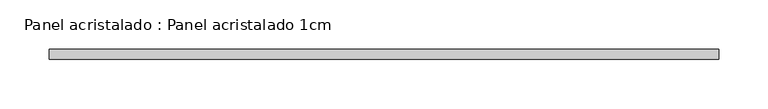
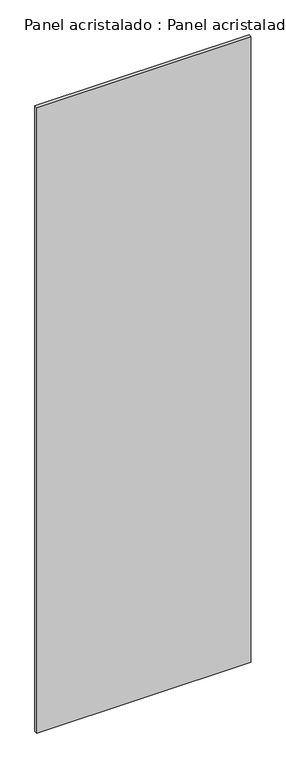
"""IFC4 building model written with IfcOpenShell, lengths in millimetres: plate geometry, Panel acristalado : Panel acristalado 1cm."""

import ifcopenshell
import ifcopenshell.guid

model = None  # the IFC model being written
_history = None  # IfcOwnerHistory: only IFC2X3 demands one
_inside = {}  # id of a spatial element -> (the spatial element, [elements in it])
_under = {}  # id of a project, library or spatial element -> (it, [spatial elements below it])
_declared = {}  # id of a project -> (the project, [libraries it declares])
_typed = {}  # id of a type object -> (the type object, [elements of that type])
_made_of = {}  # id of a material, layer set ... -> (it, [elements and type objects made of it])


def new_model(schema):
    """Start an empty IFC model of exactly this schema.

    Asked for "IFC4X3", IfcOpenShell would pick the latest addendum, in which some entities
    have other attributes; the version numbers below select the first issue.
    IFC2X3 requires an IfcOwnerHistory on every rooted entity: one is made here for all.
    """
    global model, _history
    if schema == "IFC4X3":
        model = ifcopenshell.file(schema_version=(4, 3, 0, 0))
    else:
        model = ifcopenshell.file(schema=schema)
    _inside.clear()
    _under.clear()
    _declared.clear()
    _typed.clear()
    _made_of.clear()
    _history = None
    if model.schema == "IFC2X3":
        org = make("IfcOrganization", Name="unknown")
        user = make(
            "IfcPersonAndOrganization",
            ThePerson=make("IfcPerson", FamilyName="unknown"),
            TheOrganization=org,
        )
        app = make(
            "IfcApplication",
            ApplicationDeveloper=org,
            Version="unknown",
            ApplicationFullName="unknown",
            ApplicationIdentifier="unknown",
        )
        _history = make(
            "IfcOwnerHistory",
            OwningUser=user,
            OwningApplication=app,
            ChangeAction="ADDED",
            CreationDate=0,
        )
    return model


def make(cls, **values):
    """One entity of the class cls with the attributes given. An attribute that is None is left unset."""
    return model.create_entity(
        cls, **{name: value for name, value in values.items() if value is not None}
    )


def rooted(cls, **values):
    """An entity with a GlobalId (a new one), such as an element, a storey or a relation."""
    return make(cls, GlobalId=ifcopenshell.guid.new(), OwnerHistory=_history, **values)


def si_unit(unit_type, name, prefix=None):
    """IfcSIUnit, for example si_unit("LENGTHUNIT", "METRE", prefix="MILLI")."""
    return make("IfcSIUnit", UnitType=unit_type, Prefix=prefix, Name=name)


def assignment(units):
    """IfcUnitAssignment: the units of a project."""
    return None if units is None else make("IfcUnitAssignment", Units=units)


def point(xyz):
    """IfcCartesianPoint."""
    return None if xyz is None else make("IfcCartesianPoint", Coordinates=xyz)


def direction(xyz):
    """IfcDirection."""
    return None if xyz is None else make("IfcDirection", DirectionRatios=xyz)


def frame(location, z_axis=None, x_axis=None):
    """IfcAxis2Placement3D, a coordinate frame: its origin and axes. An axis left out is left unset."""
    return make(
        "IfcAxis2Placement3D",
        Location=point(location),
        Axis=direction(z_axis),
        RefDirection=direction(x_axis),
    )


def origin():
    """The frame at (0, 0, 0) with its axes left unset."""
    return frame((0.0, 0.0, 0.0))


def origin_with_axes():
    """The frame at (0, 0, 0) with the z axis (0, 0, 1) and the x axis (1, 0, 0) written out."""
    return frame((0.0, 0.0, 0.0), z_axis=(0.0, 0.0, 1.0), x_axis=(1.0, 0.0, 0.0))


def place(relative_to, where):
    """IfcLocalPlacement: puts the frame where relative to a parent placement (None: the world)."""
    return make(
        "IfcLocalPlacement", PlacementRelTo=relative_to, RelativePlacement=where
    )


def context(
    kind, dimensions, precision=None, world=None, true_north=None, identifier=None
):
    """IfcGeometricRepresentationContext, for example the 3D "Model" context."""
    return make(
        "IfcGeometricRepresentationContext",
        ContextIdentifier=identifier,
        ContextType=kind,
        CoordinateSpaceDimension=dimensions,
        Precision=precision,
        WorldCoordinateSystem=world,
        TrueNorth=true_north,
    )


def project(units=None, contexts=None):
    """IfcProject with its units and contexts."""
    return rooted(
        "IfcProject",
        Name="project",
        RepresentationContexts=contexts,
        UnitsInContext=assignment(units),
    )


def spatial(cls, under=None, at=None, **own):
    """A site, building, storey or space (cls), placed at a placement, below another one or the project."""
    s = rooted(cls, ObjectPlacement=at, **own)
    if under is not None:
        _under.setdefault(under.id(), (under, []))[1].append(s)
    return s


def polyline(points):
    """IfcPolyline through the points."""
    return make("IfcPolyline", Points=[point(p) for p in points])


def outline(outer, holes=None, kind="AREA"):
    """IfcArbitraryClosedProfileDef: a profile drawn as a closed curve; with holes, ...WithVoids."""
    if holes is None:
        return make("IfcArbitraryClosedProfileDef", ProfileType=kind, OuterCurve=outer)
    return make(
        "IfcArbitraryProfileDefWithVoids",
        ProfileType=kind,
        OuterCurve=outer,
        InnerCurves=holes,
    )


def extrude(swept, where, along, depth):
    """IfcExtrudedAreaSolid: the profile swept, set in the frame where, extruded along a direction by depth."""
    return make(
        "IfcExtrudedAreaSolid",
        SweptArea=swept,
        Position=where,
        ExtrudedDirection=direction(along),
        Depth=depth,
    )


def shape(context_of_items, identifier, shape_type, items):
    """IfcShapeRepresentation: the items that make up one representation, for example the "Body"."""
    return make(
        "IfcShapeRepresentation",
        ContextOfItems=context_of_items,
        RepresentationIdentifier=identifier,
        RepresentationType=shape_type,
        Items=items,
    )


def source(mapping_origin, context_of_items, identifier, shape_type, items):
    """IfcRepresentationMap: a shape defined once, which mapped items show again and again."""
    return make(
        "IfcRepresentationMap",
        MappingOrigin=mapping_origin,
        MappedRepresentation=shape(context_of_items, identifier, shape_type, items),
    )


def transform(
    local_origin,
    x_axis=None,
    y_axis=None,
    z_axis=None,
    scale=None,
    scale2=None,
    scale3=None,
    uniform=True,
):
    """IfcCartesianTransformationOperator3D, or its non-uniform kind. x_axis, y_axis, z_axis: its Axis1, 2, 3."""
    if uniform:
        return make(
            "IfcCartesianTransformationOperator3D",
            Axis1=direction(x_axis),
            Axis2=direction(y_axis),
            LocalOrigin=point(local_origin),
            Scale=scale,
            Axis3=direction(z_axis),
        )
    return make(
        "IfcCartesianTransformationOperator3DnonUniform",
        Axis1=direction(x_axis),
        Axis2=direction(y_axis),
        LocalOrigin=point(local_origin),
        Scale=scale,
        Axis3=direction(z_axis),
        Scale2=scale2,
        Scale3=scale3,
    )


def mapped(mapping_source, mapping_target):
    """IfcMappedItem: shows the shape of a source again, moved by a transform."""
    return make(
        "IfcMappedItem", MappingSource=mapping_source, MappingTarget=mapping_target
    )


def made_of(thing, what):
    """Note that an element or type object is made of a material, layer set ...; save() writes the relation."""
    if what is not None:
        _made_of.setdefault(what.id(), (what, []))[1].append(thing)
    return thing


def element(
    cls,
    number,
    at=None,
    inside=None,
    cuts=None,
    type_object=None,
    material=None,
    context=None,
    identifier="Body",
    shape_type=None,
    held_by="IfcProductDefinitionShape",
    body=None,
    shapes=None,
    **own,
):
    """One element of the class cls, such as IfcWall. Its Tag is "e" and its number.

    at: its placement. inside: the storey or other place that contains it. cuts: it is an
    opening in that element (IfcRelVoidsElement). A single representation is given by context,
    identifier, shape_type and body (its items); several are given by shapes. held_by: the class
    of the entity that holds the representations. save() writes the other relations.
    """
    e = rooted(cls, Tag="e%d" % number, ObjectPlacement=at, **own)
    if body is not None:
        shapes = [shape(context, identifier, shape_type, body)]
    if shapes is not None:
        e.Representation = make(held_by, Representations=shapes)
    if inside is not None:
        _inside.setdefault(inside.id(), (inside, []))[1].append(e)
    if cuts is not None:
        rooted(
            "IfcRelVoidsElement", RelatingBuildingElement=cuts, RelatedOpeningElement=e
        )
    if type_object is not None:
        _typed.setdefault(type_object.id(), (type_object, []))[1].append(e)
    return made_of(e, material)


def aggregate(whole, parts):
    """IfcRelAggregates: a whole, such as a stair, and the parts it consists of."""
    return rooted("IfcRelAggregates", RelatingObject=whole, RelatedObjects=parts)


def save(model, path):
    """Write the relations noted so far, then the file.

    IfcRelAggregates (storeys below a building ...), IfcRelContainedInSpatialStructure (elements
    in a storey), IfcRelDefinesByType, IfcRelAssociatesMaterial and IfcRelDeclares: one each for
    every whole, place, type object, material and project.
    """
    for whole, parts in _under.values():
        aggregate(whole, parts)
    for where, things in _inside.values():
        rooted(
            "IfcRelContainedInSpatialStructure",
            RelatedElements=things,
            RelatingStructure=where,
        )
    for kind, things in _typed.values():
        rooted("IfcRelDefinesByType", RelatedObjects=things, RelatingType=kind)
    for what, things in _made_of.values():
        rooted("IfcRelAssociatesMaterial", RelatedObjects=things, RelatingMaterial=what)
    for by, libraries in _declared.values():
        rooted("IfcRelDeclares", RelatingContext=by, RelatedDefinitions=libraries)
    model.write(path)


def panel_acristalado_panel_acristalado_1cm_bec1e09e(model_context):
    return source(origin(), model_context, "Body", "SweptSolid", [
        extrude(outline(polyline([(340.0, -20.0), (340.0, -30.0), (-340.0, -30.0), (-340.0, -20.0), (340.0, -20.0)])), origin_with_axes(), (0.0, 0.0, 1.0), 2100.0),
    ])


if __name__ == "__main__":
    model = new_model("IFC4")
    model_context = context("Model", 3, world=origin())
    ifc_project = project(units=[si_unit("LENGTHUNIT", "METRE", prefix="MILLI")], contexts=[model_context])
    site = spatial("IfcSite", under=ifc_project)
    building = spatial("IfcBuilding", under=site)
    placement = place(None, origin())
    panel_acristalado_panel_acristalado_1cm_shape = panel_acristalado_panel_acristalado_1cm_bec1e09e(model_context)
    element("IfcPlate", 1, ObjectType="Panel acristalado : Panel acristalado 1cm", at=placement, inside=building, context=model_context, shape_type="MappedRepresentation", body=[
        mapped(panel_acristalado_panel_acristalado_1cm_shape, transform((0.0, 0.0, 0.0), x_axis=(1.0, 0.0, 0.0), y_axis=(0.0, 1.0, 0.0), z_axis=(0.0, 0.0, 1.0))),
    ])
    save(model, "model.ifc")
